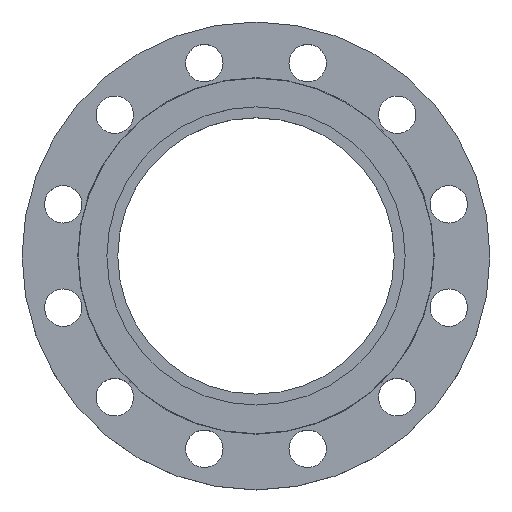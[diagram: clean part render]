
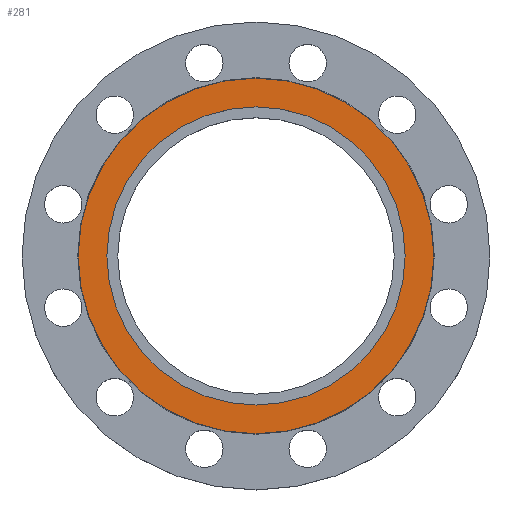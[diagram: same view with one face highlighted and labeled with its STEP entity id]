
A CAD part, top view. The second image highlights one B-rep face of the part: STEP entity #281.
In plain terms, the highlighted planar face has unit normal (0, 0, 1).
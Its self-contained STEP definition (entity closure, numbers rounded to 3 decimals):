
#68 = EDGE_CURVE ( 'NONE', #1198, #810, #75, .T. ) ;
#75 = CIRCLE ( 'NONE', #77, 119.5 ) ;
#77 = AXIS2_PLACEMENT_3D ( 'NONE', #925, #1245, #397 ) ;
#144 = DIRECTION ( 'NONE',  ( 0., 0., -1. ) ) ;
#226 = DIRECTION ( 'NONE',  ( 0., 0., 1. ) ) ;
#235 = DIRECTION ( 'NONE',  ( 0., 0., -1. ) ) ;
#269 = CARTESIAN_POINT ( 'NONE',  ( 0., 0., 0. ) ) ;
#281 = ADVANCED_FACE ( 'NONE', ( #1197, #319 ), #784, .T. ) ;
#319 = FACE_BOUND ( 'NONE', #799, .T. ) ;
#330 = AXIS2_PLACEMENT_3D ( 'NONE', #1126, #226, #672 ) ;
#389 = ORIENTED_EDGE ( 'NONE', *, *, #992, .T. ) ;
#397 = DIRECTION ( 'NONE',  ( -1., 0., 0. ) ) ;
#463 = CIRCLE ( 'NONE', #464, 142.5 ) ;
#464 = AXIS2_PLACEMENT_3D ( 'NONE', #269, #730, #1084 ) ;
#473 = EDGE_LOOP ( 'NONE', ( #498, #922 ) ) ;
#498 = ORIENTED_EDGE ( 'NONE', *, *, #823, .F. ) ;
#573 = DIRECTION ( 'NONE',  ( -1., 0., 0. ) ) ;
#643 = CIRCLE ( 'NONE', #652, 119.5 ) ;
#652 = AXIS2_PLACEMENT_3D ( 'NONE', #1133, #235, #682 ) ;
#672 = DIRECTION ( 'NONE',  ( 1., 0., 0. ) ) ;
#682 = DIRECTION ( 'NONE',  ( -1., 0., 0. ) ) ;
#689 = CIRCLE ( 'NONE', #691, 142.5 ) ;
#691 = AXIS2_PLACEMENT_3D ( 'NONE', #1063, #144, #573 ) ;
#730 = DIRECTION ( 'NONE',  ( 0., 0., -1. ) ) ;
#784 = PLANE ( 'NONE',  #330 ) ;
#799 = EDGE_LOOP ( 'NONE', ( #1242, #389 ) ) ;
#810 = VERTEX_POINT ( 'NONE', #1229 ) ;
#823 = EDGE_CURVE ( 'NONE', #1062, #1155, #463, .T. ) ;
#922 = ORIENTED_EDGE ( 'NONE', *, *, #1014, .F. ) ;
#925 = CARTESIAN_POINT ( 'NONE',  ( 0., 0., 0. ) ) ;
#992 = EDGE_CURVE ( 'NONE', #810, #1198, #643, .T. ) ;
#1014 = EDGE_CURVE ( 'NONE', #1155, #1062, #689, .T. ) ;
#1062 = VERTEX_POINT ( 'NONE', #1151 ) ;
#1063 = CARTESIAN_POINT ( 'NONE',  ( 0., 0., 0. ) ) ;
#1082 = CARTESIAN_POINT ( 'NONE',  ( 142.5, 0., 0. ) ) ;
#1084 = DIRECTION ( 'NONE',  ( -1., 0., 0. ) ) ;
#1126 = CARTESIAN_POINT ( 'NONE',  ( 0., 0., 0. ) ) ;
#1133 = CARTESIAN_POINT ( 'NONE',  ( 0., 0., 0. ) ) ;
#1151 = CARTESIAN_POINT ( 'NONE',  ( -142.5, 0., 0. ) ) ;
#1155 = VERTEX_POINT ( 'NONE', #1082 ) ;
#1197 = FACE_OUTER_BOUND ( 'NONE', #473, .T. ) ;
#1198 = VERTEX_POINT ( 'NONE', #1232 ) ;
#1229 = CARTESIAN_POINT ( 'NONE',  ( 119.5, 0., 0. ) ) ;
#1232 = CARTESIAN_POINT ( 'NONE',  ( -119.5, 0., 0. ) ) ;
#1242 = ORIENTED_EDGE ( 'NONE', *, *, #68, .T. ) ;
#1245 = DIRECTION ( 'NONE',  ( 0., 0., -1. ) ) ;
